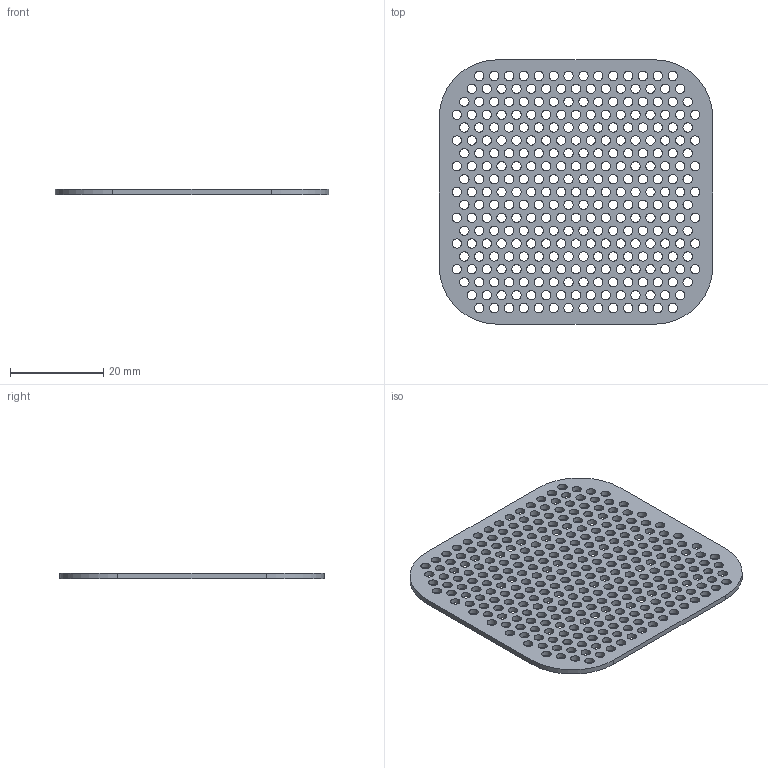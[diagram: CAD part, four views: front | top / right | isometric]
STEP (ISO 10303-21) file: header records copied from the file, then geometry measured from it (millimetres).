
FILE_DESCRIPTION(('Open CASCADE Model'),'2;1');
FILE_NAME('Open CASCADE Shape Model','2026-09-02T15:45:51',('Author'),( 'Open CASCADE'),'Open CASCADE STEP processor 7.7','Open CASCADE 7.7' ,'Unknown');
FILE_SCHEMA(('AUTOMOTIVE_DESIGN { 1 0 10303 214 1 1 1 1 }'));
Length unit declared in the file: millimetre
Products named in the file (1): Open CASCADE STEP translator 7.7 3
Bounding box: 58.8 x 56.8 x 1.1 mm (x, y, z)
Volume: 2474.6 mm3; surface area: 6838.2 mm2
Topology: 1 solids, 1 shells, 315 faces, 939 edges, 626 vertices
Faces by surface type: cylinder 309, plane 6
Full cylindrical faces by diameter (mm): 2 x305
Entity records: 26250 total; most frequent: CARTESIAN_POINT 7443, DIRECTION 3453, ORIENTED_EDGE 1878, PCURVE 1878, DEFINITIONAL_REPRESENTATION 1878, LINE 1581, VECTOR 1581, EDGE_CURVE 939
